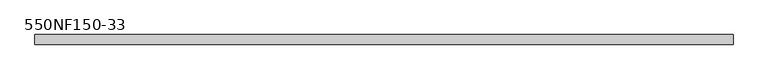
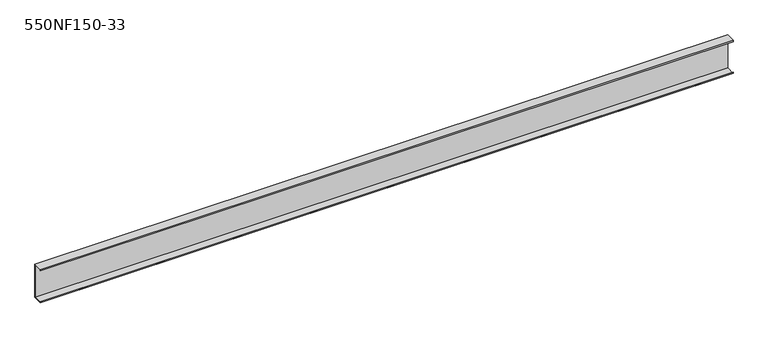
"""IFC4 building model written with IfcOpenShell, lengths in millimetres: beam geometry, BIMSF-SSMA-S : 550NF150-33."""

from ifc_helpers import new_model, si_unit, frame, origin, place, context, project, spatial, polyline, outline, extrude, source, transform, mapped, element, save


def beam_550nf150_33_263c1a2a(model_context):
    return source(origin(), model_context, "Body", "SweptSolid", [
        extrude(outline(polyline([(19.05, 69.85), (19.05, -69.85), (-19.05, -69.85), (-19.05, -65.0748), (-18.1676842, -65.0748), (-18.1676842, -68.9676842), (18.1676842, -68.9676842), (18.1676842, 68.9676842), (-18.1676842, 68.9676842), (-18.1676842, 65.0748), (-19.05, 65.0748), (-19.05, 69.85), (19.05, 69.85)])), frame((-1384.3, 0.0, 0.0), z_axis=(1.0, 0.0, 0.0), x_axis=(0.0, 1.0, 0.0)), (0.0, 0.0, 1.0), 2768.6),
    ])


if __name__ == "__main__":
    model = new_model("IFC4")
    model_context = context("Model", 3, world=origin())
    ifc_project = project(units=[si_unit("LENGTHUNIT", "METRE", prefix="MILLI")], contexts=[model_context])
    site = spatial("IfcSite", under=ifc_project)
    building = spatial("IfcBuilding", under=site)
    placement = place(None, origin())
    beam_550nf150_33_shape = beam_550nf150_33_263c1a2a(model_context)
    element("IfcBeam", 1, ObjectType="BIMSF-SSMA-S : 550NF150-33", at=placement, inside=building, context=model_context, shape_type="MappedRepresentation", body=[
        mapped(beam_550nf150_33_shape, transform((0.0, 0.0, 0.0), x_axis=(1.0, 0.0, 0.0), y_axis=(0.0, 1.0, 0.0), z_axis=(0.0, 0.0, 1.0))),
    ])
    save(model, "model.ifc")
